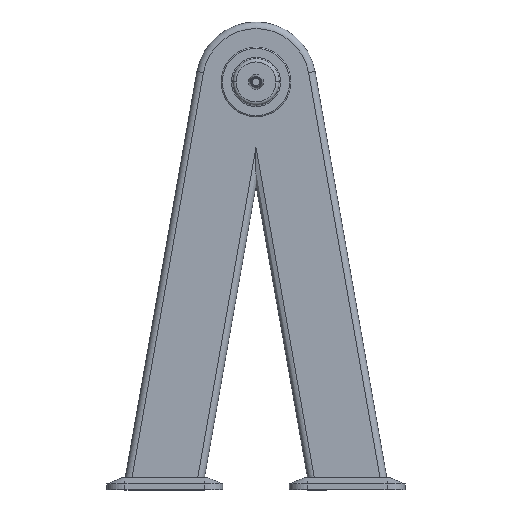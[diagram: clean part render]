
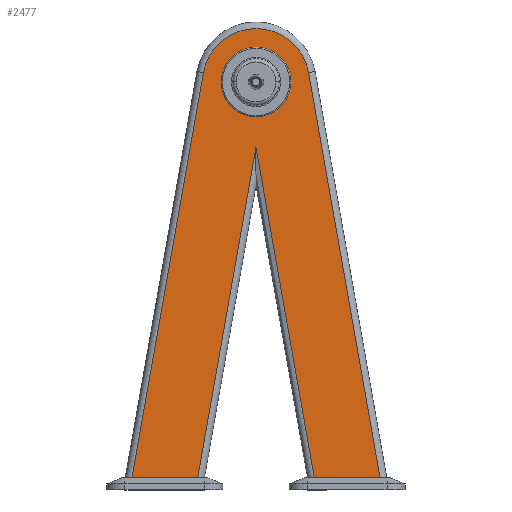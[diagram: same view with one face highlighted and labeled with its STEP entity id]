
A CAD part, top view. The second image highlights one B-rep face of the part: STEP entity #2477.
In plain terms, the highlighted planar face has unit normal (0, 0, 1).
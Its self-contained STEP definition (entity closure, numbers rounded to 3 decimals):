
#1 = CARTESIAN_POINT ( 'NONE',  ( 206.749, 20., 63. ) ) ;
#8 = CARTESIAN_POINT ( 'NONE',  ( -97.083, 20., 63. ) ) ;
#18 = ORIENTED_EDGE ( 'NONE', *, *, #1710, .F. ) ;
#22 = ORIENTED_EDGE ( 'NONE', *, *, #476, .F. ) ;
#50 = EDGE_CURVE ( 'NONE', #884, #2263, #567, .T. ) ;
#57 = VECTOR ( 'NONE', #783, 1000. ) ;
#72 = CARTESIAN_POINT ( 'NONE',  ( 87.648, 695.455, 63. ) ) ;
#216 = ORIENTED_EDGE ( 'NONE', *, *, #2452, .F. ) ;
#244 = VERTEX_POINT ( 'NONE', #1166 ) ;
#250 = VERTEX_POINT ( 'NONE', #732 ) ;
#258 = CARTESIAN_POINT ( 'NONE',  ( 0., 680., 63. ) ) ;
#297 = DIRECTION ( 'NONE',  ( 0., 0., 1. ) ) ;
#302 = AXIS2_PLACEMENT_3D ( 'NONE', #616, #2144, #860 ) ;
#323 = ORIENTED_EDGE ( 'NONE', *, *, #899, .F. ) ;
#351 = ORIENTED_EDGE ( 'NONE', *, *, #1755, .T. ) ;
#382 = EDGE_LOOP ( 'NONE', ( #323, #18 ) ) ;
#389 = ORIENTED_EDGE ( 'NONE', *, *, #896, .T. ) ;
#396 = LINE ( 'NONE', #1121, #469 ) ;
#469 = VECTOR ( 'NONE', #2357, 1000. ) ;
#476 = EDGE_CURVE ( 'NONE', #2780, #244, #1334, .T. ) ;
#489 = VECTOR ( 'NONE', #853, 1000. ) ;
#490 = CARTESIAN_POINT ( 'NONE',  ( -87.648, 695.455, 63. ) ) ;
#492 = DIRECTION ( 'NONE',  ( 1., 0., 0. ) ) ;
#518 = CARTESIAN_POINT ( 'NONE',  ( 0., 20., 63. ) ) ;
#567 = LINE ( 'NONE', #1082, #489 ) ;
#605 = ORIENTED_EDGE ( 'NONE', *, *, #2101, .T. ) ;
#616 = CARTESIAN_POINT ( 'NONE',  ( 0., 680., 63. ) ) ;
#651 = ORIENTED_EDGE ( 'NONE', *, *, #50, .T. ) ;
#704 = AXIS2_PLACEMENT_3D ( 'NONE', #1203, #2635, #1436 ) ;
#721 = VERTEX_POINT ( 'NONE', #1353 ) ;
#732 = CARTESIAN_POINT ( 'NONE',  ( 58., 680., 63. ) ) ;
#738 = VERTEX_POINT ( 'NONE', #1783 ) ;
#771 = EDGE_LOOP ( 'NONE', ( #216, #651, #351, #22, #605, #389, #1488 ) ) ;
#783 = DIRECTION ( 'NONE',  ( -0.174, 0.985, 0. ) ) ;
#849 = CARTESIAN_POINT ( 'NONE',  ( 0., 570.583, 63. ) ) ;
#853 = DIRECTION ( 'NONE',  ( 0.174, 0.985, 0. ) ) ;
#860 = DIRECTION ( 'NONE',  ( 1., 0., 0. ) ) ;
#884 = VERTEX_POINT ( 'NONE', #8 ) ;
#896 = EDGE_CURVE ( 'NONE', #1527, #1397, #1817, .T. ) ;
#899 = EDGE_CURVE ( 'NONE', #721, #250, #1177, .T. ) ;
#989 = CARTESIAN_POINT ( 'NONE',  ( -211.67, -7.91, 63. ) ) ;
#1082 = CARTESIAN_POINT ( 'NONE',  ( -10.833, 509.147, 63. ) ) ;
#1121 = CARTESIAN_POINT ( 'NONE',  ( 103.195, -14.664, 63. ) ) ;
#1166 = CARTESIAN_POINT ( 'NONE',  ( 97.083, 20., 63. ) ) ;
#1170 = FACE_BOUND ( 'NONE', #382, .T. ) ;
#1177 = CIRCLE ( 'NONE', #1483, 58. ) ;
#1203 = CARTESIAN_POINT ( 'NONE',  ( 0., 680., 63. ) ) ;
#1239 = LINE ( 'NONE', #989, #1750 ) ;
#1254 = DIRECTION ( 'NONE',  ( -1., 0., 0. ) ) ;
#1334 = LINE ( 'NONE', #2089, #2355 ) ;
#1353 = CARTESIAN_POINT ( 'NONE',  ( -58., 680., 63. ) ) ;
#1397 = VERTEX_POINT ( 'NONE', #490 ) ;
#1436 = DIRECTION ( 'NONE',  ( 1., 0., 0. ) ) ;
#1483 = AXIS2_PLACEMENT_3D ( 'NONE', #258, #1850, #492 ) ;
#1488 = ORIENTED_EDGE ( 'NONE', *, *, #2450, .T. ) ;
#1527 = VERTEX_POINT ( 'NONE', #72 ) ;
#1675 = DIRECTION ( 'NONE',  ( -1., 0., 0. ) ) ;
#1690 = FACE_OUTER_BOUND ( 'NONE', #771, .T. ) ;
#1710 = EDGE_CURVE ( 'NONE', #250, #721, #2747, .T. ) ;
#1750 = VECTOR ( 'NONE', #2663, 1000. ) ;
#1755 = EDGE_CURVE ( 'NONE', #2263, #244, #396, .T. ) ;
#1783 = CARTESIAN_POINT ( 'NONE',  ( -206.749, 20., 63. ) ) ;
#1817 = CIRCLE ( 'NONE', #704, 89. ) ;
#1850 = DIRECTION ( 'NONE',  ( 0., 0., 1. ) ) ;
#1882 = DIRECTION ( 'NONE',  ( 1., 0., 0. ) ) ;
#2067 = PLANE ( 'NONE',  #2741 ) ;
#2078 = CARTESIAN_POINT ( 'NONE',  ( 87.648, 695.455, 63. ) ) ;
#2089 = CARTESIAN_POINT ( 'NONE',  ( 0., 20., 63. ) ) ;
#2101 = EDGE_CURVE ( 'NONE', #2780, #1527, #2333, .T. ) ;
#2144 = DIRECTION ( 'NONE',  ( 0., 0., 1. ) ) ;
#2263 = VERTEX_POINT ( 'NONE', #849 ) ;
#2268 = VECTOR ( 'NONE', #1675, 1000. ) ;
#2333 = LINE ( 'NONE', #2078, #57 ) ;
#2355 = VECTOR ( 'NONE', #1254, 1000. ) ;
#2357 = DIRECTION ( 'NONE',  ( 0.174, -0.985, 0. ) ) ;
#2450 = EDGE_CURVE ( 'NONE', #1397, #738, #1239, .T. ) ;
#2452 = EDGE_CURVE ( 'NONE', #884, #738, #2799, .T. ) ;
#2477 = ADVANCED_FACE ( 'NONE', ( #1170, #1690 ), #2067, .T. ) ;
#2635 = DIRECTION ( 'NONE',  ( 0., 0., 1. ) ) ;
#2663 = DIRECTION ( 'NONE',  ( -0.174, -0.985, 0. ) ) ;
#2668 = CARTESIAN_POINT ( 'NONE',  ( 0., 680., 63. ) ) ;
#2741 = AXIS2_PLACEMENT_3D ( 'NONE', #2668, #297, #1882 ) ;
#2747 = CIRCLE ( 'NONE', #302, 58. ) ;
#2780 = VERTEX_POINT ( 'NONE', #1 ) ;
#2799 = LINE ( 'NONE', #518, #2268 ) ;
